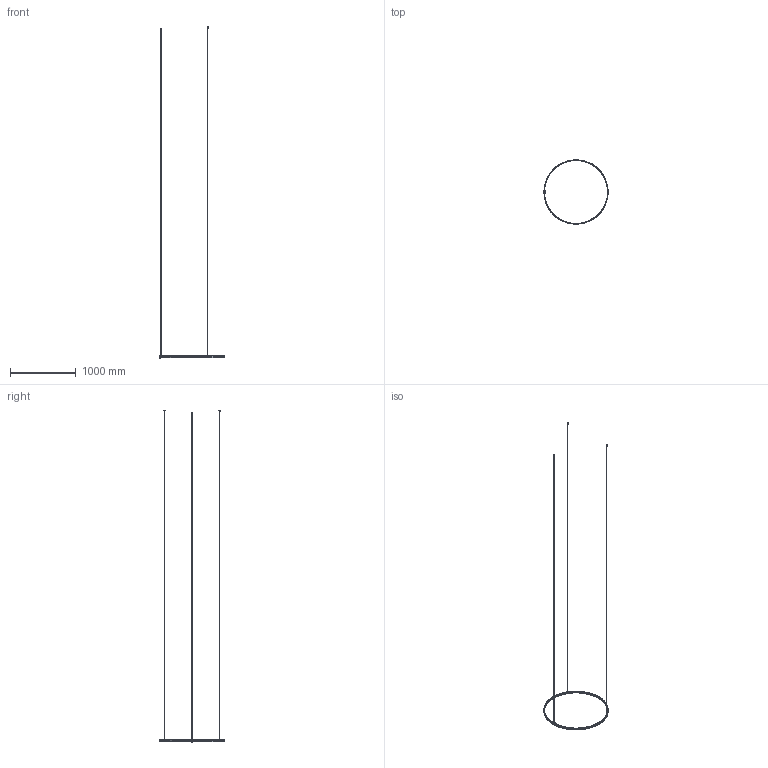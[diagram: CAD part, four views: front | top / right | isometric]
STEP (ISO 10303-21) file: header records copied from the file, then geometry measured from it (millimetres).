
FILE_DESCRIPTION(/* description */ (''),/* implementation_level */ '2;1');
FILE_NAME(/* name */ 'Zero Round M153__.100',/* time_stamp */ '2025-05-29T10:51:17+02:00',/* author */ (''),/* organization */ (''),/* preprocessor_version */ 'ST-DEVELOPER v16.5',/* originating_system */ '',/* authorisation */ '');
FILE_SCHEMA (('AUTOMOTIVE_DESIGN'));
Length unit declared in the file: millimetre
Products named in the file (10): Document; 5402.0001000.00 (fune ACC 19 fili D 1,2mm con cilindro terminale 3x3m
m)_5402.0001500.00; 4501.0009000.00 (cavo schermato FR5FH2R-FX 1xAWG20 trasparente)_4501.
0009500.00; 3300.0298000.00 (manicotto per sospensione singola ALL D 20mm H 32mm 
con foro M10x1)_3302.0298000.00; 5200.0002000.00 (dispositivo regolazione fune OTTONE nichelato con in
nesto maschio M10 L 14mm)_5200.0002000.00; 3300.0099000.00 (profilo curvo Zero Round sospensione ALL 7,7x30mm D 
est. 977mm)_3306.0099360.00; 3100.0027000.00 (schermo estruso Giplast 09PE79 PC 19x3,8mm per curva
 D int. 959mm)_3101.0027360.98; 5401.0016000.00 (molla in nastro sagomata ACC INOX 5x31x5mm sp 0,4)_5
401.0016000.00; 3200.0200002.00 (copertura giunzione con foro M8 ACC 60,2x18,7mm H 23
mm sp 1)_3209.0200002.00; 5205.0004007.00 (nipplo D 10mm sp 2 gambo H 7mm M8x1 PC trasparente S
teab 5475-3-07-011)_5205.0004007.00
Assembly tree (12 placements, depth 2):
  Document
    5402.0001000.00 (fune ACC 19 fili D 1,2mm con cilindro terminale 3x3m
m)_5402.0001500.00  x2
    4501.0009000.00 (cavo schermato FR5FH2R-FX 1xAWG20 trasparente)_4501.
0009500.00
    3300.0298000.00 (manicotto per sospensione singola ALL D 20mm H 32mm 
con foro M10x1)_3302.0298000.00  x2
    5200.0002000.00 (dispositivo regolazione fune OTTONE nichelato con in
nesto maschio M10 L 14mm)_5200.0002000.00  x2
    3300.0099000.00 (profilo curvo Zero Round sospensione ALL 7,7x30mm D 
est. 977mm)_3306.0099360.00
    3100.0027000.00 (schermo estruso Giplast 09PE79 PC 19x3,8mm per curva
 D int. 959mm)_3101.0027360.98
    5401.0016000.00 (molla in nastro sagomata ACC INOX 5x31x5mm sp 0,4)_5
401.0016000.00
    3200.0200002.00 (copertura giunzione con foro M8 ACC 60,2x18,7mm H 23
mm sp 1)_3209.0200002.00
    5205.0004007.00 (nipplo D 10mm sp 2 gambo H 7mm M8x1 PC trasparente S
teab 5475-3-07-011)_5205.0004007.00
Bounding box: 977.4 x 977 x 5055.45 mm (x, y, z)
Volume: 565952.9 mm3; surface area: 586683.5 mm2
Topology: 17 solids, 17 shells, 521 faces, 1261 edges, 777 vertices
Faces by surface type: bspline 394, plane 127
Entity records: 24633 total; most frequent: CARTESIAN_POINT 18457, ORIENTED_EDGE 2058, EDGE_CURVE 1029, VERTEX_POINT 629, B_SPLINE_CURVE_WITH_KNOTS 469, EDGE_LOOP 444, ADVANCED_FACE 424, FACE_OUTER_BOUND 424
